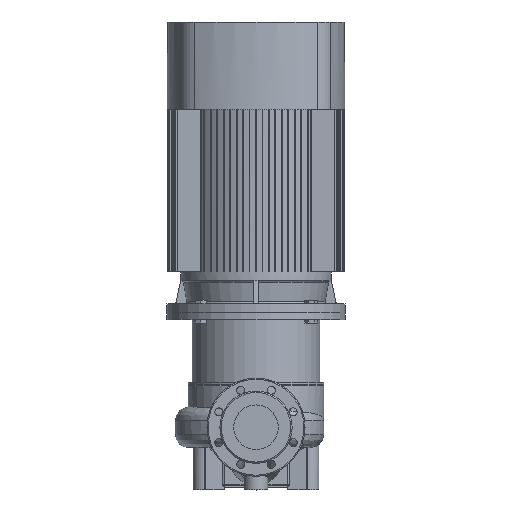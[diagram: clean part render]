
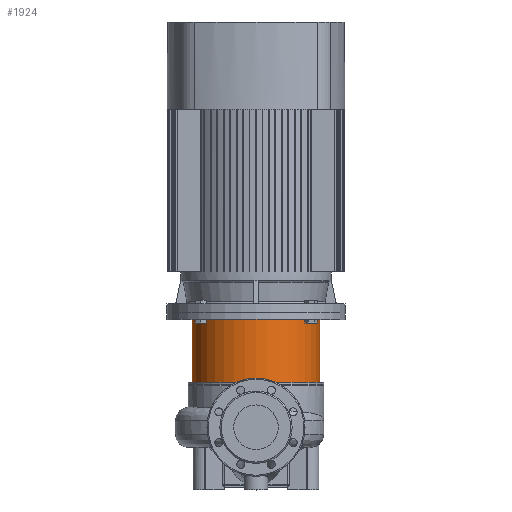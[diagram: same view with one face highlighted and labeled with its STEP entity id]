
A CAD part, top view. The second image highlights one B-rep face of the part: STEP entity #1924.
In plain terms, the highlighted cylindrical face has radius 143 mm (diameter 286 mm), a partial arc.
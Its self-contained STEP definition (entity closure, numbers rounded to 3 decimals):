
#151 = CARTESIAN_POINT ( 'NONE',  ( -143., 0., 14.36 ) ) ;
#1036 = DIRECTION ( 'NONE',  ( 1., 0., 0. ) ) ;
#1345 = AXIS2_PLACEMENT_3D ( 'NONE', #7667, #10621, #17498 ) ;
#1713 = CYLINDRICAL_SURFACE ( 'NONE', #12633, 143. ) ;
#1924 = ADVANCED_FACE ( 'NONE', ( #13432 ), #1713, .T. ) ;
#3230 = EDGE_LOOP ( 'NONE', ( #9978, #13338, #24660, #30101 ) ) ;
#3337 = CIRCLE ( 'NONE', #23290, 143. ) ;
#3540 = CARTESIAN_POINT ( 'NONE',  ( -143., 0., -15. ) ) ;
#4264 = VERTEX_POINT ( 'NONE', #12471 ) ;
#4344 = VECTOR ( 'NONE', #28409, 1000. ) ;
#4853 = LINE ( 'NONE', #151, #18806 ) ;
#7621 = VERTEX_POINT ( 'NONE', #23302 ) ;
#7667 = CARTESIAN_POINT ( 'NONE',  ( 0., 0., -15. ) ) ;
#8380 = DIRECTION ( 'NONE',  ( 0., 0., 1. ) ) ;
#8581 = DIRECTION ( 'NONE',  ( 1., 0., 0. ) ) ;
#9831 = DIRECTION ( 'NONE',  ( 0., 0., 1. ) ) ;
#9978 = ORIENTED_EDGE ( 'NONE', *, *, #15050, .F. ) ;
#10621 = DIRECTION ( 'NONE',  ( 0., 0., 1. ) ) ;
#11241 = CARTESIAN_POINT ( 'NONE',  ( 0., 0., 14.36 ) ) ;
#12471 = CARTESIAN_POINT ( 'NONE',  ( 143., 0., -15. ) ) ;
#12633 = AXIS2_PLACEMENT_3D ( 'NONE', #11241, #8380, #1036 ) ;
#13338 = ORIENTED_EDGE ( 'NONE', *, *, #22584, .T. ) ;
#13432 = FACE_OUTER_BOUND ( 'NONE', #3230, .T. ) ;
#15050 = EDGE_CURVE ( 'NONE', #23024, #20016, #4853, .T. ) ;
#17498 = DIRECTION ( 'NONE',  ( 1., 0., 0. ) ) ;
#18568 = CARTESIAN_POINT ( 'NONE',  ( 143., 0., 14.36 ) ) ;
#18806 = VECTOR ( 'NONE', #9831, 1000. ) ;
#18826 = CARTESIAN_POINT ( 'NONE',  ( -143., 0., -155.5 ) ) ;
#20016 = VERTEX_POINT ( 'NONE', #3540 ) ;
#20289 = CIRCLE ( 'NONE', #1345, 143. ) ;
#22379 = EDGE_CURVE ( 'NONE', #20016, #4264, #20289, .T. ) ;
#22584 = EDGE_CURVE ( 'NONE', #23024, #7621, #3337, .T. ) ;
#22699 = EDGE_CURVE ( 'NONE', #7621, #4264, #23890, .T. ) ;
#23024 = VERTEX_POINT ( 'NONE', #18826 ) ;
#23290 = AXIS2_PLACEMENT_3D ( 'NONE', #25151, #29971, #8581 ) ;
#23302 = CARTESIAN_POINT ( 'NONE',  ( 143., 0., -155.5 ) ) ;
#23890 = LINE ( 'NONE', #18568, #4344 ) ;
#24660 = ORIENTED_EDGE ( 'NONE', *, *, #22699, .T. ) ;
#25151 = CARTESIAN_POINT ( 'NONE',  ( 0., 0., -155.5 ) ) ;
#28409 = DIRECTION ( 'NONE',  ( 0., 0., 1. ) ) ;
#29971 = DIRECTION ( 'NONE',  ( 0., 0., 1. ) ) ;
#30101 = ORIENTED_EDGE ( 'NONE', *, *, #22379, .F. ) ;
